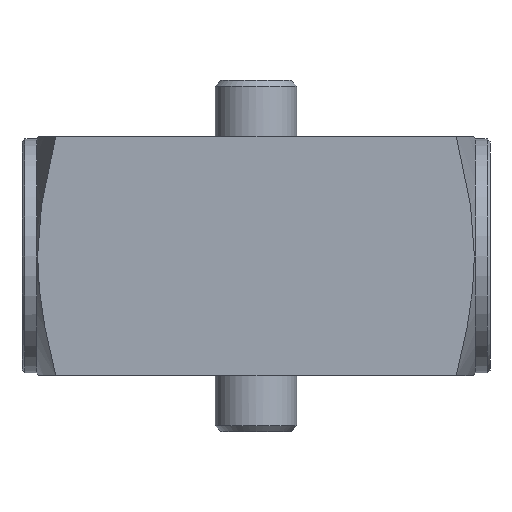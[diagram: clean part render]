
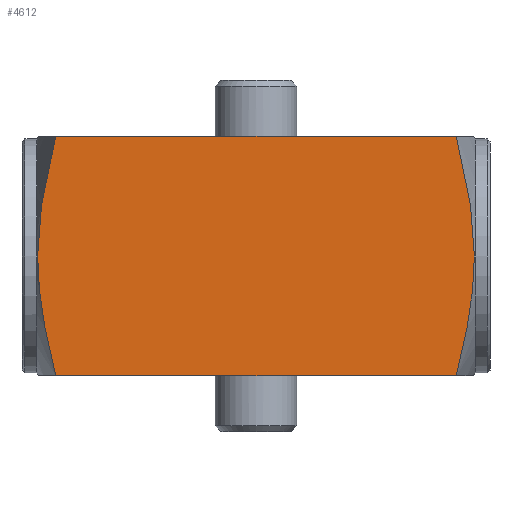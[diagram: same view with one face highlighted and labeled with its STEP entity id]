
A CAD part, front view. The second image highlights one B-rep face of the part: STEP entity #4612.
In plain terms, the highlighted planar face has unit normal (0, -1, 0).
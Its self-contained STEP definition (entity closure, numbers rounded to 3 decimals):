
#128=(
BOUNDED_CURVE()
B_SPLINE_CURVE(2,(#8034,#8035,#8036,#8037),.UNSPECIFIED.,.F.,.F.)
B_SPLINE_CURVE_WITH_KNOTS((3,1,3),(-34.825,-34.759,
-23.964),.UNSPECIFIED.)
CURVE()
GEOMETRIC_REPRESENTATION_ITEM()
RATIONAL_B_SPLINE_CURVE((5.027,5.034,6.068,
6.068))
REPRESENTATION_ITEM('')
);
#129=(
BOUNDED_CURVE()
B_SPLINE_CURVE(2,(#8039,#8040,#8041,#8042),.UNSPECIFIED.,.F.,.F.)
B_SPLINE_CURVE_WITH_KNOTS((3,1,3),(13.265,20.041,24.24),
 .UNSPECIFIED.)
CURVE()
GEOMETRIC_REPRESENTATION_ITEM()
RATIONAL_B_SPLINE_CURVE((5.08,5.729,6.132,
6.132))
REPRESENTATION_ITEM('')
);
#130=(
BOUNDED_CURVE()
B_SPLINE_CURVE(2,(#8044,#8045,#8046),.UNSPECIFIED.,.F.,.F.)
B_SPLINE_CURVE_WITH_KNOTS((3,3),(24.24,35.216),
 .UNSPECIFIED.)
CURVE()
GEOMETRIC_REPRESENTATION_ITEM()
RATIONAL_B_SPLINE_CURVE((6.132,6.132,5.08))
REPRESENTATION_ITEM('')
);
#131=(
BOUNDED_CURVE()
B_SPLINE_CURVE(2,(#8049,#8050,#8051,#8052),.UNSPECIFIED.,.F.,.F.)
B_SPLINE_CURVE_WITH_KNOTS((3,1,3),(-23.964,-19.668,
-13.102),.UNSPECIFIED.)
CURVE()
GEOMETRIC_REPRESENTATION_ITEM()
RATIONAL_B_SPLINE_CURVE((6.068,6.068,5.657,
5.027))
REPRESENTATION_ITEM('')
);
#568=FACE_OUTER_BOUND('',#846,.T.);
#846=EDGE_LOOP('',(#3929,#3930,#3931,#3932,#3933,#3934));
#1175=LINE('',#7469,#1543);
#1217=LINE('',#8048,#1585);
#1543=VECTOR('',#5554,10.);
#1585=VECTOR('',#5912,10.);
#1960=VERTEX_POINT('',#7459);
#1962=VERTEX_POINT('',#7465);
#2075=VERTEX_POINT('',#8033);
#2076=VERTEX_POINT('',#8038);
#2077=VERTEX_POINT('',#8043);
#2078=VERTEX_POINT('',#8047);
#2513=EDGE_CURVE('',#1962,#1960,#1175,.T.);
#2698=EDGE_CURVE('',#1960,#2075,#128,.T.);
#2699=EDGE_CURVE('',#2076,#1962,#129,.F.);
#2700=EDGE_CURVE('',#2077,#2076,#130,.F.);
#2701=EDGE_CURVE('',#2077,#2078,#1217,.T.);
#2702=EDGE_CURVE('',#2075,#2078,#131,.T.);
#3929=ORIENTED_EDGE('',*,*,#2698,.F.);
#3930=ORIENTED_EDGE('',*,*,#2513,.F.);
#3931=ORIENTED_EDGE('',*,*,#2699,.F.);
#3932=ORIENTED_EDGE('',*,*,#2700,.F.);
#3933=ORIENTED_EDGE('',*,*,#2701,.T.);
#3934=ORIENTED_EDGE('',*,*,#2702,.F.);
#4111=PLANE('',#4940);
#4612=ADVANCED_FACE('',(#568),#4111,.T.);
#4940=AXIS2_PLACEMENT_3D('',#8032,#5910,#5911);
#5554=DIRECTION('',(1.,0.,0.));
#5910=DIRECTION('center_axis',(0.,-1.,0.));
#5911=DIRECTION('ref_axis',(0.,0.,-1.));
#5912=DIRECTION('',(1.,0.,0.));
#7459=CARTESIAN_POINT('',(31.525,-63.066,20.5));
#7465=CARTESIAN_POINT('',(-36.93,-63.066,20.5));
#7469=CARTESIAN_POINT('',(-42.703,-63.066,20.5));
#8032=CARTESIAN_POINT('Origin',(-42.703,-63.066,-20.5));
#8033=CARTESIAN_POINT('',(34.615,-63.066,0.));
#8034=CARTESIAN_POINT('Ctrl Pts',(31.525,-63.066,20.5));
#8035=CARTESIAN_POINT('Ctrl Pts',(31.547,-63.066,20.412));
#8036=CARTESIAN_POINT('Ctrl Pts',(34.615,-63.066,8.44));
#8037=CARTESIAN_POINT('Ctrl Pts',(34.615,-63.066,0.));
#8038=CARTESIAN_POINT('',(-40.021,-63.066,0.));
#8039=CARTESIAN_POINT('Ctrl Pts',(-36.93,-63.066,20.5));
#8040=CARTESIAN_POINT('Ctrl Pts',(-38.972,-63.066,12.565));
#8041=CARTESIAN_POINT('Ctrl Pts',(-40.021,-63.066,3.249));
#8042=CARTESIAN_POINT('Ctrl Pts',(-40.021,-63.066,0.));
#8043=CARTESIAN_POINT('',(-36.93,-63.066,-20.5));
#8044=CARTESIAN_POINT('Ctrl Pts',(-40.021,-63.066,0.));
#8045=CARTESIAN_POINT('Ctrl Pts',(-40.021,-63.066,-8.491));
#8046=CARTESIAN_POINT('Ctrl Pts',(-36.93,-63.066,-20.5));
#8047=CARTESIAN_POINT('',(31.525,-63.066,-20.5));
#8048=CARTESIAN_POINT('',(-42.703,-63.066,-20.5));
#8049=CARTESIAN_POINT('Ctrl Pts',(34.615,-63.066,0.));
#8050=CARTESIAN_POINT('Ctrl Pts',(34.615,-63.066,-3.359));
#8051=CARTESIAN_POINT('Ctrl Pts',(33.529,-63.066,-12.713));
#8052=CARTESIAN_POINT('Ctrl Pts',(31.525,-63.066,-20.5));
